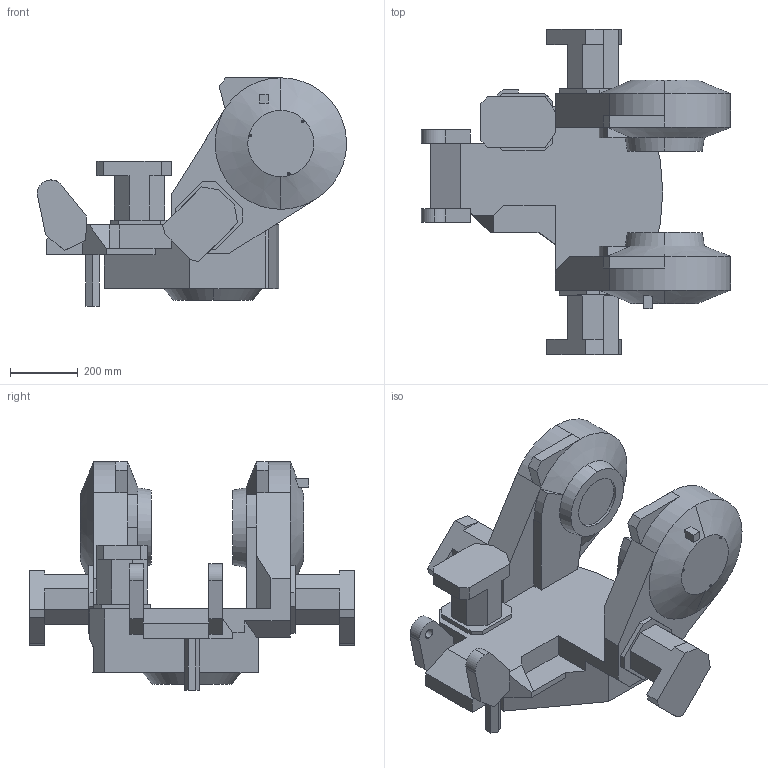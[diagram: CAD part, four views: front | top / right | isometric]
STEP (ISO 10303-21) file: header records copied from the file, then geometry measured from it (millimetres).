
FILE_DESCRIPTION (( 'STEP AP214' ), '1' );
FILE_NAME ('IRB4400_60-195_IRC5_rev02_LINK01_CAD.STEP', '2016-11-03T06:48:54', ( 'ABB' ), ( 'ABB' ), 'SwSTEP 2.0', 'SolidWorks 2014', '' );
FILE_SCHEMA (( 'AUTOMOTIVE_DESIGN' ));
Length unit declared in the file: millimetre
Products named in the file (1): IRB4400_60-195_IRC5_rev02_LINK01_CAD
Bounding box: 911.98 x 958.6 x 674 mm (x, y, z)
Volume: 105629121.4 mm3; surface area: 2436000 mm2
Topology: 1 solids, 1 shells, 234 faces, 612 edges, 386 vertices
Faces by surface type: plane 179, cylinder 29, cone 26
Entity records: 7116 total; most frequent: CARTESIAN_POINT 1239, ORIENTED_EDGE 1200, DIRECTION 1155, EDGE_CURVE 600, VECTOR 503, LINE 503, VERTEX_POINT 386, AXIS2_PLACEMENT_3D 326
